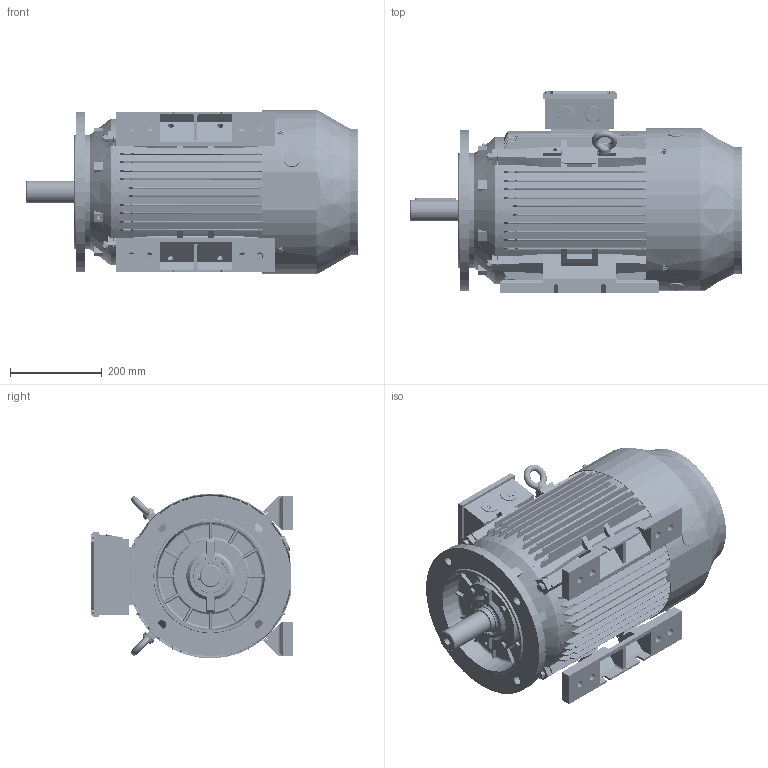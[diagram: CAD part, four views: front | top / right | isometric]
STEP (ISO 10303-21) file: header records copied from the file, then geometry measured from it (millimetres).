
FILE_DESCRIPTION (( 'STEP AP203' ), '1' );
FILE_NAME ('TC 180L B35外形图.STEP', '2014-09-04T09:10:27', ( '微软用户' ), ( '微软中国' ), 'SwSTEP 2.0', 'SolidWorks 2008', '' );
FILE_SCHEMA (( 'CONFIG_CONTROL_DESIGN' ));
Length unit declared in the file: millimetre
Products named in the file (27): TC 180 轴承外盖NDE_默认; TC 180 B3 后端盖_默认; TC 180 轴承外盖DE_默认; TC 180 轴承内盖_默认; IE2 180-4P风叶_默认; 10_默认; 8_默认; M6-10_默认; 螺塞M32_默认; M6-20_默认; TC 180L B35俋倛芞; TC 180L B5机座_默认; TC 180L 底脚_默认; TC 180L转子_默认; TC 180L 轴_默认; 6311_默认; 平键14-9-90_默认; TC 180风罩_默认; TC 160-180接线盒座_默认; TC 160-180接线盒盖_默认; M10-35_默认; M8-65_默认; 油封55-75-8_默认; 铜油嘴_默认; 扣塞_默认; 吊环M12_默认; TC 180 B5 前端盖_默认
Assembly tree (52 placements, depth 3):
  TC 180L B35俋倛芞
    吊环M12_默认  x2
    M8-65_默认  x4
    M10-35_默认  x4
    TC 180 轴承内盖_默认  x2
    8_默认  x4
    M6-10_默认  x4
    螺塞M32_默认  x2
    TC 180 B3 后端盖_默认
    TC 180L B5机座_默认
    TC 180 轴承外盖DE_默认
    10_默认  x4
    油封55-75-8_默认  x2
    TC 180 轴承外盖NDE_默认
    IE2 180-4P风叶_默认
    TC 160-180接线盒座_默认
    铜油嘴_默认  x2
    TC 160-180接线盒盖_默认
    M6-20_默认  x4
    TC 180L转子_默认
      TC 180L 轴_默认
      平键14-9-90_默认
      6311_默认  x2
    TC 180L 底脚_默认  x2
    扣塞_默认  x2
    TC 180风罩_默认
    TC 180 B5 前端盖_默认
Bounding box: 725 x 441 x 359.96 mm (x, y, z)
Volume: 13074071.7 mm3; surface area: 3440691.3 mm2
Topology: 53 solids, 53 shells, 6811 faces, 19407 edges, 12707 vertices
Faces by surface type: plane 3226, cylinder 2598, cone 370, torus 294, bspline 211, sphere 112
Entity records: 215948 total; most frequent: CARTESIAN_POINT 55089, ORIENTED_EDGE 33680, DIRECTION 32212, EDGE_CURVE 16840, AXIS2_PLACEMENT_3D 11266, VERTEX_POINT 11049, VECTOR 9680, LINE 9680
